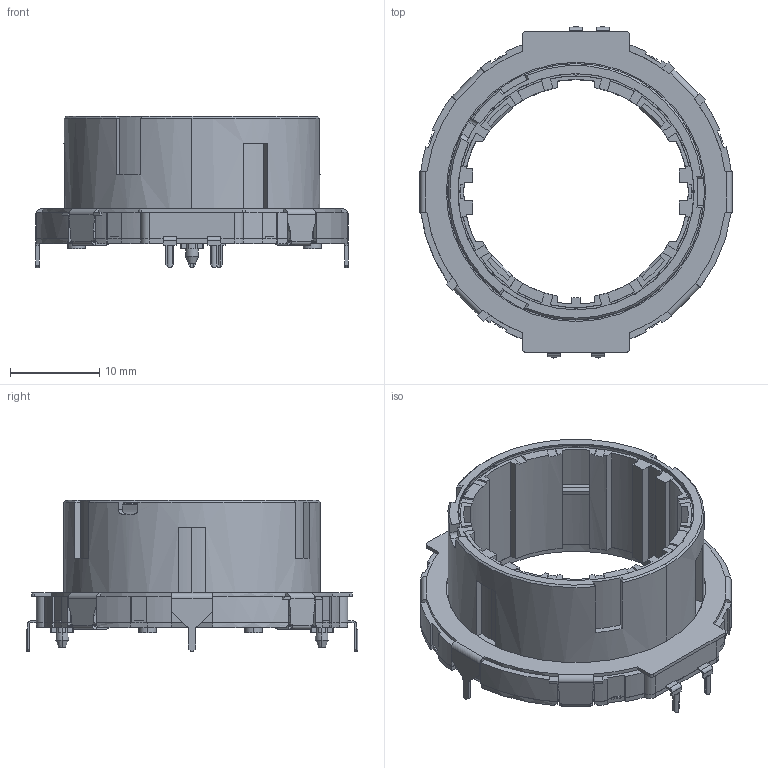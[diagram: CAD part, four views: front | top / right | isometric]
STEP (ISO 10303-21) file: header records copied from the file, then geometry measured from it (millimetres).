
FILE_DESCRIPTION (( 'STEP AP214' ), '1' );
FILE_NAME ('EC35CH120401.STEP', '2017-05-09T03:00:09', ( 'user' ), ( 'Hewlett-Packard Company' ), 'SwSTEP 2.0', 'SolidWorks 2014', '' );
FILE_SCHEMA (( 'AUTOMOTIVE_DESIGN' ));
Length unit declared in the file: millimetre
Products named in the file (1): EC35CH120401
Bounding box: 35.1 x 37.3 x 17 mm (x, y, z)
Volume: 3661.3 mm3; surface area: 4289.8 mm2
Topology: 1 solids, 5 shells, 880 faces, 2465 edges, 1597 vertices
Faces by surface type: plane 585, cylinder 233, bspline 32, cone 30
Entity records: 38517 total; most frequent: CARTESIAN_POINT 6323, ORIENTED_EDGE 4930, DIRECTION 4500, EDGE_CURVE 2465, LINE 1672, VECTOR 1672, VERTEX_POINT 1597, AXIS2_PLACEMENT_3D 1414
